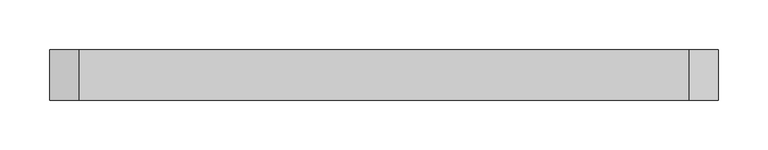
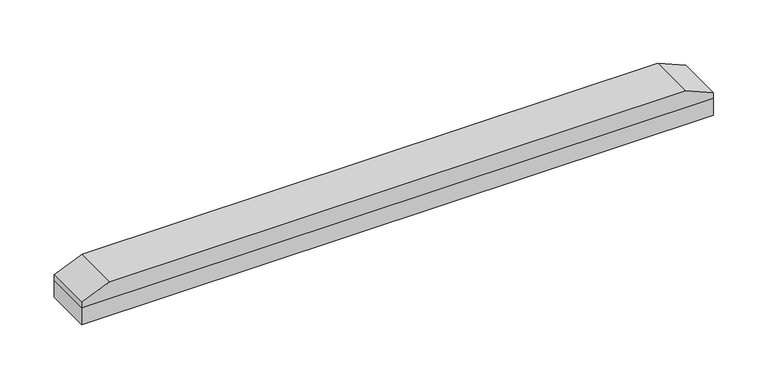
"""IFC4 building model written with IfcOpenShell, lengths in millimetres: proxy geometry, Spinneybeck_ARO Plank 8 : D - 2’-2 1/2” x 2” x 3/4”."""

from ifc_helpers import new_model, si_unit, frame, origin, origin_with_axes, place, context, project, spatial, polyline, outline, extrude, source, transform, mapped, element, save


def specialty_equipment_5a5a9d1b(model_context):
    return source(origin(), model_context, "Body", "SweptSolid", [
        extrude(outline(polyline([(19.05, -336.55), (19.05, 336.55), (25.4, 336.55), (38.1, 306.9166667), (38.1, -306.9166667), (25.4, -336.55), (19.05, -336.55)])), frame((0.0, -25.4, 0.0), z_axis=(0.0, 1.0, 0.0), x_axis=(0.0, 0.0, 1.0)), (0.0, 0.0, 1.0), 50.8),
        extrude(outline(polyline([(-336.55, -25.4), (-336.55, 25.4), (336.55, 25.4), (336.55, -25.4), (-336.55, -25.4)])), origin_with_axes(), (0.0, 0.0, 1.0), 19.05),
    ])


if __name__ == "__main__":
    model = new_model("IFC4")
    model_context = context("Model", 3, world=origin())
    ifc_project = project(units=[si_unit("LENGTHUNIT", "METRE", prefix="MILLI")], contexts=[model_context])
    site = spatial("IfcSite", under=ifc_project)
    building = spatial("IfcBuilding", under=site)
    placement = place(None, origin())
    specialty_equipment_shape = specialty_equipment_5a5a9d1b(model_context)
    element("IfcBuildingElementProxy", 1, Name="Spinneybeck_ARO Plank 8 : D - 2’-2 1/2” x 2” x 3/4”", ObjectType="Spinneybeck_ARO Plank 8 : D - 2’-2 1/2” x 2” x 3/4”", at=placement, inside=building, context=model_context, shape_type="MappedRepresentation", body=[
        mapped(specialty_equipment_shape, transform((0.0, 0.0, 0.0), x_axis=(1.0, 0.0, 0.0), y_axis=(0.0, 1.0, 0.0), z_axis=(0.0, 0.0, 1.0))),
    ])
    save(model, "model.ifc")
